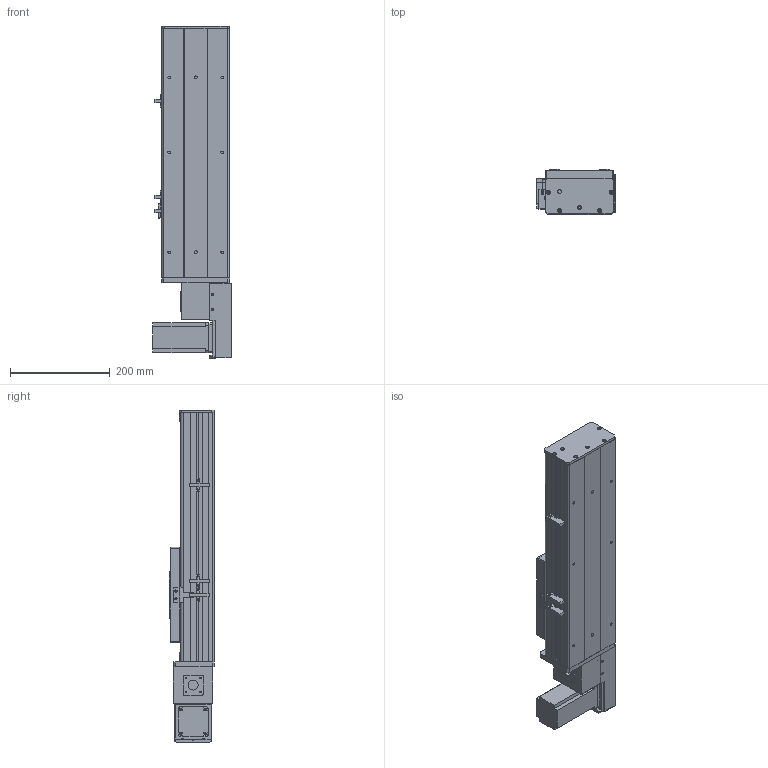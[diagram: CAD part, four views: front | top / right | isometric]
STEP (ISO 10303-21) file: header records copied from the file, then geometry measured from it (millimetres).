
FILE_DESCRIPTION (( 'STEP AP203' ), '1' );
FILE_NAME ('Y135CB-D90-S200-BL-P400W.STEP', '2020-02-17T07:54:47', ( '微软用户' ), ( '微软中国' ), 'SwSTEP 2.0', 'SolidWorks 2017', '' );
FILE_SCHEMA (( 'CONFIG_CONTROL_DESIGN' ));
Length unit declared in the file: millimetre
Products named in the file (18): C-詩湍揤踡え-陔; Y10B--々湍喘謫眊--666; 135CB--詩湍-CE; Y10B-耜蚾蟀諉啣----; Y100-135俋离換覜ん--; Y俋欶BR----; Y135C-陔俋离換覜結え-; 0B-埴倛裔啣; 5C--俋欶; 0B-源倛裔啣; C-雄赽釱--; 0B-萇儂楊擘啣; Y135CB-耜裔; Y135CB-D90-S200-BL-P400W; san松下电机400不带刹车----; 135CB---遴掛极.-; 5CB --掛极耜裔啣-; 35CB---喘謫眊楊擘啣
Assembly tree (21 placements, depth 2):
  Y135CB-D90-S200-BL-P400W
    Y135CB-耜裔
    135CB---遴掛极.-
    35CB---喘謫眊楊擘啣
    Y10B--々湍喘謫眊--666
    Y10B-耜蚾蟀諉啣----
    Y俋欶BR----
    0B-埴倛裔啣
    0B-源倛裔啣
    0B-萇儂楊擘啣
    san松下电机400不带刹车----
    5CB --掛极耜裔啣-  x2
    C-詩湍揤踡え-陔  x2
    135CB--詩湍-CE
    Y100-135俋离換覜ん--  x3
    Y135C-陔俋离換覜結え-
    5C--俋欶
    C-雄赽釱--
Bounding box: 157.5 x 91 x 664.5 mm (x, y, z)
Volume: 2309558.7 mm3; surface area: 883625.1 mm2
Topology: 21 solids, 21 shells, 945 faces, 2497 edges, 1654 vertices
Faces by surface type: cylinder 465, plane 464, cone 16
Entity records: 29091 total; most frequent: DIRECTION 4825, CARTESIAN_POINT 4786, ORIENTED_EDGE 4470, EDGE_CURVE 2235, AXIS2_PLACEMENT_3D 1753, VERTEX_POINT 1482, VECTOR 1319, LINE 1319
